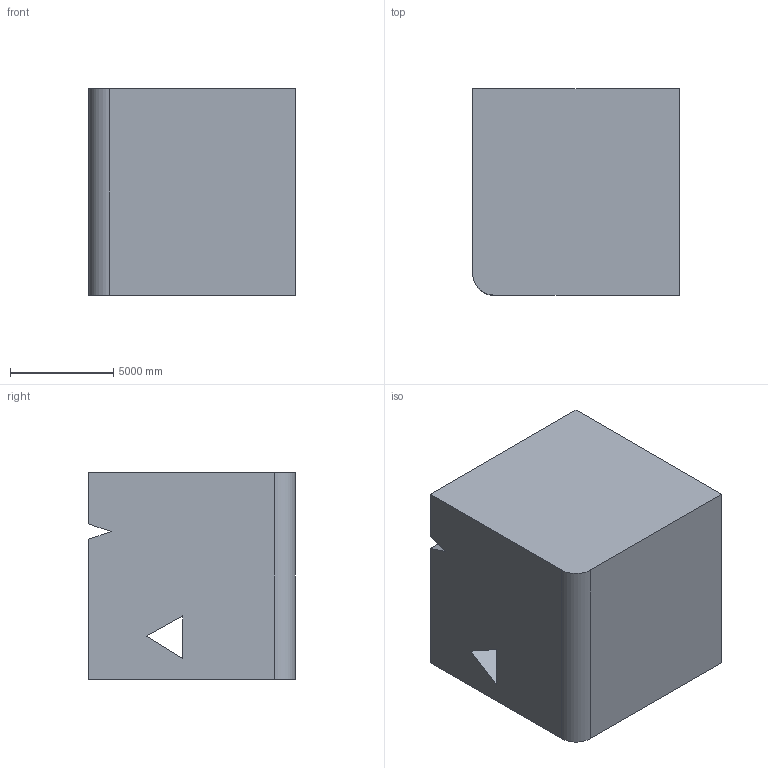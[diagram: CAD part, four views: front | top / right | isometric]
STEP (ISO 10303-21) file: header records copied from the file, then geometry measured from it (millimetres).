
FILE_DESCRIPTION (( 'STEP AP203' ), '1' );
FILE_NAME ('205.STEP', '2022-07-28T13:53:55', ( 'user' ), ( '' ), 'SwSTEP 2.0', 'SolidWorks 2021', '' );
FILE_SCHEMA (( 'CONFIG_CONTROL_DESIGN' ));
Length unit declared in the file: centimetre
Products named in the file (1): 205
Bounding box: 10000 x 10000 x 10000 mm (x, y, z)
Volume: 975639991187.2 mm3; surface area: 667742554.6 mm2
Topology: 1 solids, 1 shells, 13 faces, 33 edges, 22 vertices
Faces by surface type: plane 12, cylinder 1
Entity records: 470 total; most frequent: CARTESIAN_POINT 69, ORIENTED_EDGE 66, DIRECTION 63, EDGE_CURVE 33, LINE 31, VECTOR 31, VERTEX_POINT 22, AXIS2_PLACEMENT_3D 16
